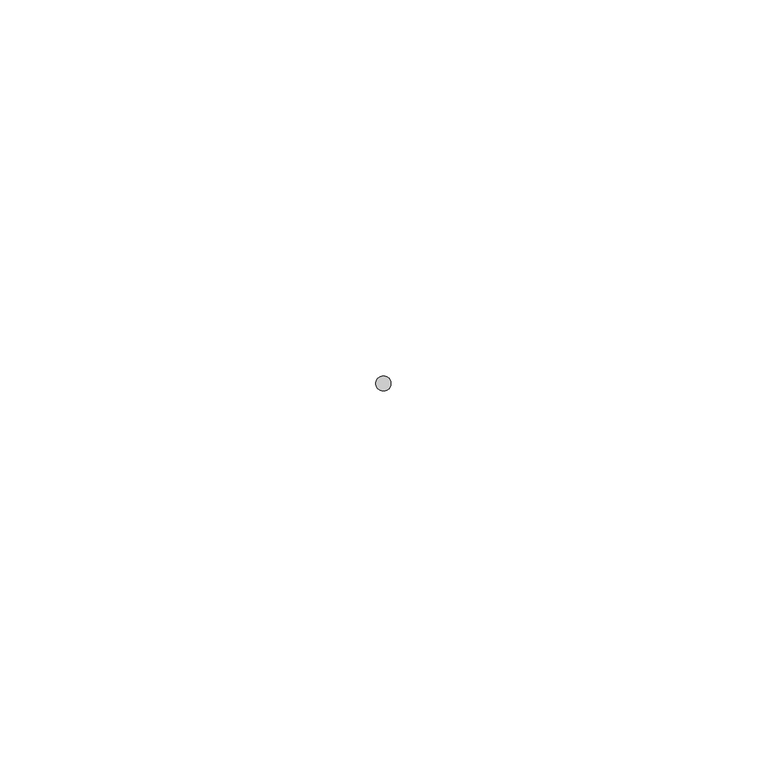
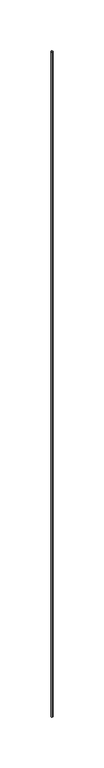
"""IFC4 building model written with IfcOpenShell, lengths in millimetres: furniture geometry, Cloudberry_Large : Cloudberry Large."""

from ifc_helpers import new_model, si_unit, point, frame, origin, origin_2d, place, context, project, spatial, circle_curve, trimmed, segment, composite_curve, outline, extrude, source, transform, mapped, element, save


def furniture_d811e34f(model_context):
    return source(origin(), model_context, "Body", "SweptSolid", [
        extrude(outline(composite_curve([segment(trimmed(circle_curve(origin_2d(), 1.0), [point((0.0, -1.0))], [point((0.0, 1.0))], False, "CARTESIAN"), True, "CONTINUOUS"), segment(trimmed(circle_curve(origin_2d(), 1.0), [point((0.0, 1.0))], [point((0.0, -1.0))], False, "CARTESIAN"), True, "CONTINUOUS")], self_intersect=False)), frame((0.0, 0.0, -800.0), z_axis=(0.0, 0.0, 1.0), x_axis=(1.0, 0.0, 0.0)), (0.0, 0.0, 1.0), 800.0),
    ])


if __name__ == "__main__":
    model = new_model("IFC4")
    model_context = context("Model", 3, world=origin())
    ifc_project = project(units=[si_unit("LENGTHUNIT", "METRE", prefix="MILLI")], contexts=[model_context])
    site = spatial("IfcSite", under=ifc_project)
    building = spatial("IfcBuilding", under=site)
    placement = place(None, origin())
    furniture_shape = furniture_d811e34f(model_context)
    element("IfcFurniture", 1, ObjectType="Cloudberry_Large : Cloudberry Large", at=placement, inside=building, context=model_context, shape_type="MappedRepresentation", body=[
        mapped(furniture_shape, transform((0.0, 0.0, 0.0), x_axis=(1.0, 0.0, 0.0), y_axis=(0.0, 1.0, 0.0), z_axis=(0.0, 0.0, 1.0))),
    ])
    save(model, "model.ifc")
